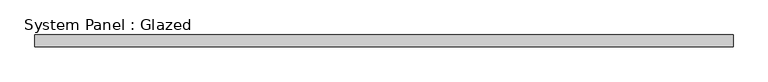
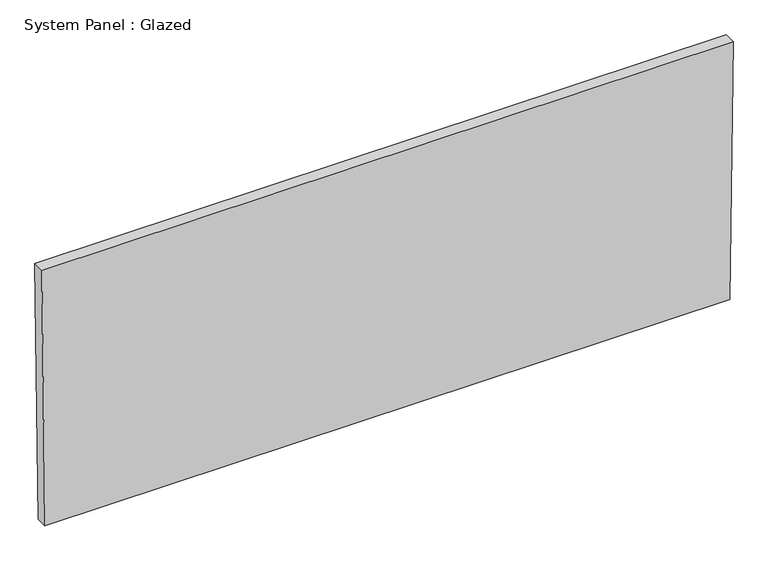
"""IFC4 building model written with IfcOpenShell, lengths in millimetres: plate geometry, System Panel : Glazed."""

from ifc_helpers import new_model, si_unit, frame, origin, place, context, project, spatial, polyline, outline, extrude, source, transform, mapped, element, save


def system_panel_glazed_b572a165(model_context):
    return source(origin(), model_context, "Body", "SweptSolid", [
        extrude(outline(polyline([(0.0, -736.8236907), (0.0, 736.8236907), (584.1562589, 743.8219444), (584.1562589, -743.8219444), (0.0, -736.8236907)])), frame((0.0, 19.05, 0.0), z_axis=(0.0, 1.0, 0.0), x_axis=(0.0, 0.0, 1.0)), (0.0, 0.0, 1.0), 25.4),
    ])


if __name__ == "__main__":
    model = new_model("IFC4")
    model_context = context("Model", 3, world=origin())
    ifc_project = project(units=[si_unit("LENGTHUNIT", "METRE", prefix="MILLI")], contexts=[model_context])
    site = spatial("IfcSite", under=ifc_project)
    building = spatial("IfcBuilding", under=site)
    placement = place(None, origin())
    system_panel_glazed_shape = system_panel_glazed_b572a165(model_context)
    element("IfcPlate", 1, ObjectType="System Panel : Glazed", at=placement, inside=building, context=model_context, shape_type="MappedRepresentation", body=[
        mapped(system_panel_glazed_shape, transform((0.0, 0.0, 0.0), x_axis=(1.0, 0.0, 0.0), y_axis=(0.0, 1.0, 0.0), z_axis=(0.0, 0.0, 1.0))),
    ])
    save(model, "model.ifc")
